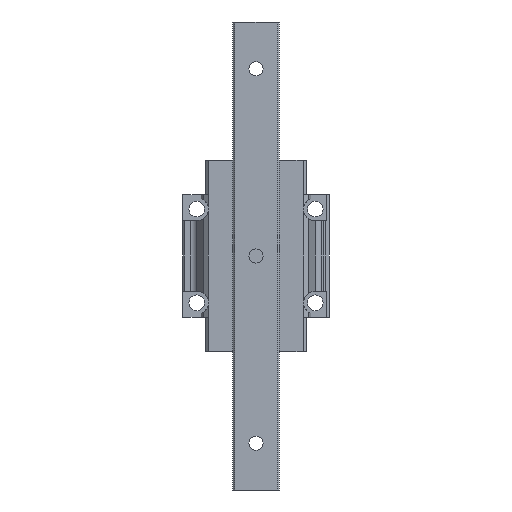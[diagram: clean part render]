
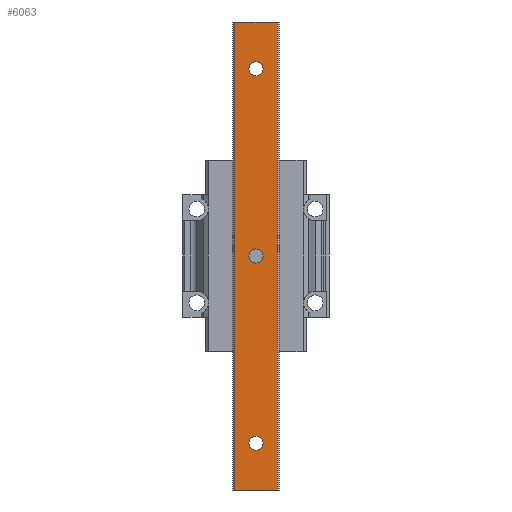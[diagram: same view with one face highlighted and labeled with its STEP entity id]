
A CAD part, front view. The second image highlights one B-rep face of the part: STEP entity #6063.
In plain terms, the highlighted planar face has unit normal (0, -1, 0).
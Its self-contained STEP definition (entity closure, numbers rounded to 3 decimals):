
#5177=DIRECTION('',(-1.,0.,0.));
#5178=VECTOR('',#5177,13.6);
#5179=CARTESIAN_POINT('',(6.8,-15.,-75.));
#5180=LINE('',#5179,#5178);
#5181=DIRECTION('',(0.,0.,-1.));
#5182=VECTOR('',#5181,150.);
#5183=CARTESIAN_POINT('',(6.8,-15.,75.));
#5184=LINE('',#5183,#5182);
#5185=CARTESIAN_POINT('',(0.,-15.,0.));
#5186=DIRECTION('',(0.,-1.,0.));
#5187=DIRECTION('',(1.,0.,0.));
#5188=AXIS2_PLACEMENT_3D('',#5185,#5186,#5187);
#5190=CARTESIAN_POINT('',(0.,-15.,0.));
#5191=DIRECTION('',(0.,-1.,0.));
#5192=DIRECTION('',(-1.,0.,0.));
#5193=AXIS2_PLACEMENT_3D('',#5190,#5191,#5192);
#5195=CARTESIAN_POINT('',(0.,-15.,-60.));
#5196=DIRECTION('',(0.,-1.,0.));
#5197=DIRECTION('',(1.,0.,0.));
#5198=AXIS2_PLACEMENT_3D('',#5195,#5196,#5197);
#5200=CARTESIAN_POINT('',(0.,-15.,-60.));
#5201=DIRECTION('',(0.,-1.,0.));
#5202=DIRECTION('',(-1.,0.,0.));
#5203=AXIS2_PLACEMENT_3D('',#5200,#5201,#5202);
#5205=CARTESIAN_POINT('',(0.,-15.,60.));
#5206=DIRECTION('',(0.,-1.,0.));
#5207=DIRECTION('',(-1.,0.,0.));
#5208=AXIS2_PLACEMENT_3D('',#5205,#5206,#5207);
#5210=CARTESIAN_POINT('',(0.,-15.,60.));
#5211=DIRECTION('',(0.,-1.,0.));
#5212=DIRECTION('',(1.,0.,0.));
#5213=AXIS2_PLACEMENT_3D('',#5210,#5211,#5212);
#5215=DIRECTION('',(0.,0.,-1.));
#5216=VECTOR('',#5215,150.);
#5217=CARTESIAN_POINT('',(-6.8,-15.,75.));
#5218=LINE('',#5217,#5216);
#5398=DIRECTION('',(-1.,0.,0.));
#5399=VECTOR('',#5398,13.6);
#5400=CARTESIAN_POINT('',(6.8,-15.,75.));
#5401=LINE('',#5400,#5399);
#5647=CARTESIAN_POINT('',(-6.8,-15.,-75.));
#5648=VERTEX_POINT('',#5647);
#5649=CARTESIAN_POINT('',(6.8,-15.,-75.));
#5650=VERTEX_POINT('',#5649);
#5695=CARTESIAN_POINT('',(6.8,-15.,75.));
#5696=VERTEX_POINT('',#5695);
#5697=CARTESIAN_POINT('',(-6.8,-15.,75.));
#5698=VERTEX_POINT('',#5697);
#5699=CARTESIAN_POINT('',(2.25,-15.,0.));
#5700=CARTESIAN_POINT('',(-2.25,-15.,0.));
#5701=VERTEX_POINT('',#5699);
#5702=VERTEX_POINT('',#5700);
#5703=CARTESIAN_POINT('',(2.25,-15.,-60.));
#5704=CARTESIAN_POINT('',(-2.25,-15.,-60.));
#5705=VERTEX_POINT('',#5703);
#5706=VERTEX_POINT('',#5704);
#5707=CARTESIAN_POINT('',(-2.25,-15.,60.));
#5708=CARTESIAN_POINT('',(2.25,-15.,60.));
#5709=VERTEX_POINT('',#5707);
#5710=VERTEX_POINT('',#5708);
#6032=CARTESIAN_POINT('',(-6.8,-15.,-75.));
#6033=DIRECTION('',(0.,-1.,0.));
#6034=DIRECTION('',(1.,0.,0.));
#6035=AXIS2_PLACEMENT_3D('',#6032,#6033,#6034);
#6036=PLANE('',#6035);
#6037=ORIENTED_EDGE('',*,*,#5836,.T.);
#6039=ORIENTED_EDGE('',*,*,#6038,.F.);
#6041=ORIENTED_EDGE('',*,*,#6040,.F.);
#6042=ORIENTED_EDGE('',*,*,#6024,.T.);
#6043=EDGE_LOOP('',(#6037,#6039,#6041,#6042));
#6044=FACE_OUTER_BOUND('',#6043,.F.);
#6046=ORIENTED_EDGE('',*,*,#6045,.T.);
#6048=ORIENTED_EDGE('',*,*,#6047,.T.);
#6049=EDGE_LOOP('',(#6046,#6048));
#6050=FACE_BOUND('',#6049,.F.);
#6052=ORIENTED_EDGE('',*,*,#6051,.T.);
#6054=ORIENTED_EDGE('',*,*,#6053,.T.);
#6055=EDGE_LOOP('',(#6052,#6054));
#6056=FACE_BOUND('',#6055,.F.);
#6058=ORIENTED_EDGE('',*,*,#6057,.T.);
#6060=ORIENTED_EDGE('',*,*,#6059,.T.);
#6061=EDGE_LOOP('',(#6058,#6060));
#6062=FACE_BOUND('',#6061,.F.);
#6063=ADVANCED_FACE('',(#6044,#6050,#6056,#6062),#6036,.T.);
#5189=CIRCLE('',#5188,2.25);
#5194=CIRCLE('',#5193,2.25);
#5199=CIRCLE('',#5198,2.25);
#5204=CIRCLE('',#5203,2.25);
#5209=CIRCLE('',#5208,2.25);
#5214=CIRCLE('',#5213,2.25);
#5836=EDGE_CURVE('',#5650,#5648,#5180,.T.);
#6024=EDGE_CURVE('',#5696,#5650,#5184,.T.);
#6038=EDGE_CURVE('',#5698,#5648,#5218,.T.);
#6040=EDGE_CURVE('',#5696,#5698,#5401,.T.);
#6045=EDGE_CURVE('',#5701,#5702,#5189,.T.);
#6047=EDGE_CURVE('',#5702,#5701,#5194,.T.);
#6051=EDGE_CURVE('',#5705,#5706,#5199,.T.);
#6053=EDGE_CURVE('',#5706,#5705,#5204,.T.);
#6057=EDGE_CURVE('',#5709,#5710,#5209,.T.);
#6059=EDGE_CURVE('',#5710,#5709,#5214,.T.);
